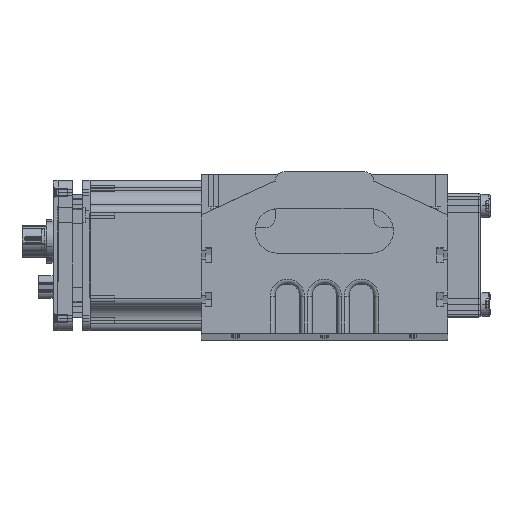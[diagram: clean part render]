
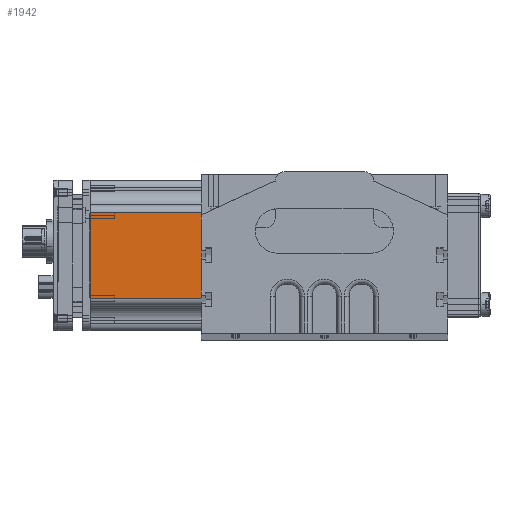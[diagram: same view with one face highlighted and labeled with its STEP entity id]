
A CAD part, top view. The second image highlights one B-rep face of the part: STEP entity #1942.
In plain terms, the highlighted planar face has unit normal (0, 0, 1).
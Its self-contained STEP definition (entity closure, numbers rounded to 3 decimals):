
#1890 = VERTEX_POINT ( 'NONE', #4671 ) ;
#1902 = ORIENTED_EDGE ( 'NONE', *, *, #1937, .T. ) ;
#1915 = ORIENTED_EDGE ( 'NONE', *, *, #1926, .F. ) ;
#1923 = VERTEX_POINT ( 'NONE', #4726 ) ;
#1924 = ORIENTED_EDGE ( 'NONE', *, *, #1928, .F. ) ;
#1925 = EDGE_CURVE ( 'NONE', #1923, #1940, #4715, .T. ) ;
#1926 = EDGE_CURVE ( 'NONE', #1955, #1890, #4711, .T. ) ;
#1927 = ORIENTED_EDGE ( 'NONE', *, *, #1925, .F. ) ;
#1928 = EDGE_CURVE ( 'NONE', #19669, #1923, #4736, .T. ) ;
#1930 = EDGE_CURVE ( 'NONE', #1890, #19669, #4762, .T. ) ;
#1933 = ORIENTED_EDGE ( 'NONE', *, *, #14620, .F. ) ;
#1934 = EDGE_LOOP ( 'NONE', ( #1939, #1933, #1943, #1902, #1927, #1924, #1996, #1915 ) ) ;
#1937 = EDGE_CURVE ( 'NONE', #16390, #1940, #4750, .T. ) ;
#1939 = ORIENTED_EDGE ( 'NONE', *, *, #1946, .F. ) ;
#1940 = VERTEX_POINT ( 'NONE', #4763 ) ;
#1942 = ADVANCED_FACE ( 'NONE', ( #4811 ), #4746, .F. ) ;
#1943 = ORIENTED_EDGE ( 'NONE', *, *, #16448, .F. ) ;
#1946 = EDGE_CURVE ( 'NONE', #13872, #1955, #4801, .T. ) ;
#1955 = VERTEX_POINT ( 'NONE', #4788 ) ;
#1996 = ORIENTED_EDGE ( 'NONE', *, *, #1930, .F. ) ;
#4671 = CARTESIAN_POINT ( 'NONE',  ( 17.5, 94., 30.5 ) ) ;
#4711 = LINE ( 'NONE', #4774, #4773 ) ;
#4712 = DIRECTION ( 'NONE',  ( 0., -1., 0. ) ) ;
#4713 = VECTOR ( 'NONE', #4712, 1000. ) ;
#4714 = CARTESIAN_POINT ( 'NONE',  ( 24.5, 7., 30.5 ) ) ;
#4715 = LINE ( 'NONE', #4714, #4713 ) ;
#4726 = CARTESIAN_POINT ( 'NONE',  ( 24.5, 7., 30.5 ) ) ;
#4736 = LINE ( 'NONE', #4770, #4768 ) ;
#4746 = PLANE ( 'NONE',  #4757 ) ;
#4749 = CARTESIAN_POINT ( 'NONE',  ( -24.5, 0., 30.5 ) ) ;
#4750 = LINE ( 'NONE', #4749, #4813 ) ;
#4757 = AXIS2_PLACEMENT_3D ( 'NONE', #4806, #4805, #4804 ) ;
#4759 = DIRECTION ( 'NONE',  ( 0., -1., 0. ) ) ;
#4760 = VECTOR ( 'NONE', #4759, 1000. ) ;
#4761 = CARTESIAN_POINT ( 'NONE',  ( 17.5, 95.35, 30.5 ) ) ;
#4762 = LINE ( 'NONE', #4761, #4760 ) ;
#4763 = CARTESIAN_POINT ( 'NONE',  ( 24.5, 0., 30.5 ) ) ;
#4767 = DIRECTION ( 'NONE',  ( 1., 0., 0. ) ) ;
#4768 = VECTOR ( 'NONE', #4767, 1000. ) ;
#4770 = CARTESIAN_POINT ( 'NONE',  ( -24.5, 7., 30.5 ) ) ;
#4772 = DIRECTION ( 'NONE',  ( 1., 0., 0. ) ) ;
#4773 = VECTOR ( 'NONE', #4772, 1000. ) ;
#4774 = CARTESIAN_POINT ( 'NONE',  ( 26.5, 94., 30.5 ) ) ;
#4788 = CARTESIAN_POINT ( 'NONE',  ( -17.5, 94., 30.5 ) ) ;
#4791 = DIRECTION ( 'NONE',  ( 0., 1., 0. ) ) ;
#4792 = VECTOR ( 'NONE', #4791, 1000. ) ;
#4793 = CARTESIAN_POINT ( 'NONE',  ( -17.5, 7., 30.5 ) ) ;
#4801 = LINE ( 'NONE', #4793, #4792 ) ;
#4804 = DIRECTION ( 'NONE',  ( -1., 0., 0. ) ) ;
#4805 = DIRECTION ( 'NONE',  ( 0., 0., -1. ) ) ;
#4806 = CARTESIAN_POINT ( 'NONE',  ( -24.5, 7., 30.5 ) ) ;
#4811 = FACE_OUTER_BOUND ( 'NONE', #1934, .T. ) ;
#4812 = DIRECTION ( 'NONE',  ( 1., 0., 0. ) ) ;
#4813 = VECTOR ( 'NONE', #4812, 1000. ) ;
#13872 = VERTEX_POINT ( 'NONE', #21224 ) ;
#14620 = EDGE_CURVE ( 'NONE', #14677, #13872, #22424, .T. ) ;
#14677 = VERTEX_POINT ( 'NONE', #22849 ) ;
#16390 = VERTEX_POINT ( 'NONE', #26213 ) ;
#16448 = EDGE_CURVE ( 'NONE', #16390, #14677, #26269, .T. ) ;
#19669 = VERTEX_POINT ( 'NONE', #32808 ) ;
#21224 = CARTESIAN_POINT ( 'NONE',  ( -17.5, 7., 30.5 ) ) ;
#22393 = DIRECTION ( 'NONE',  ( 1., 0., 0. ) ) ;
#22394 = VECTOR ( 'NONE', #22393, 1000. ) ;
#22396 = CARTESIAN_POINT ( 'NONE',  ( -24.5, 7., 30.5 ) ) ;
#22424 = LINE ( 'NONE', #22396, #22394 ) ;
#22849 = CARTESIAN_POINT ( 'NONE',  ( -24.5, 7., 30.5 ) ) ;
#26213 = CARTESIAN_POINT ( 'NONE',  ( -24.5, 0., 30.5 ) ) ;
#26268 = CARTESIAN_POINT ( 'NONE',  ( -24.5, 7., 30.5 ) ) ;
#26269 = LINE ( 'NONE', #26268, #26309 ) ;
#26308 = DIRECTION ( 'NONE',  ( 0., 1., 0. ) ) ;
#26309 = VECTOR ( 'NONE', #26308, 1000. ) ;
#32808 = CARTESIAN_POINT ( 'NONE',  ( 17.5, 7., 30.5 ) ) ;
